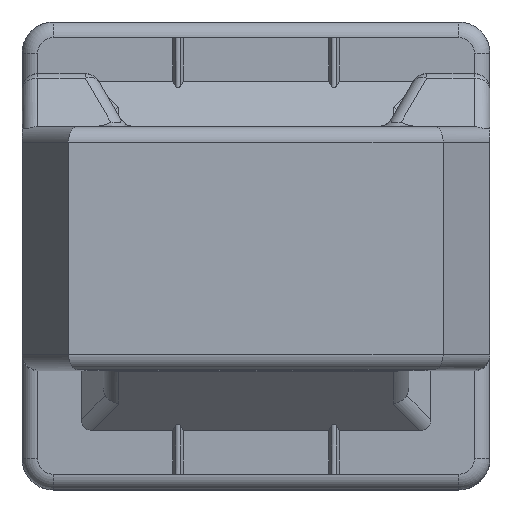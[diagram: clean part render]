
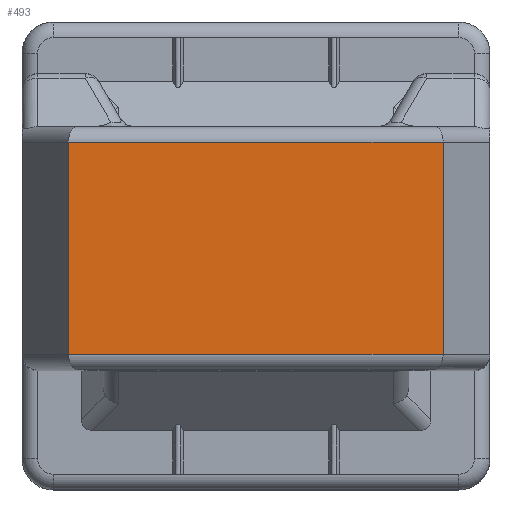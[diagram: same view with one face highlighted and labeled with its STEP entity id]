
A CAD part, top view. The second image highlights one B-rep face of the part: STEP entity #493.
In plain terms, the highlighted planar face has unit normal (0, 0, 1).
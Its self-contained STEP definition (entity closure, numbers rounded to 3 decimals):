
#493=ADVANCED_FACE('',(#1092),#1093,.F.);
#1092=FACE_OUTER_BOUND('',#2222,.T.);
#1093=PLANE('',#2223);
#2222=EDGE_LOOP('',(#4352,#4353,#4354,#4355));
#2223=AXIS2_PLACEMENT_3D('',#4356,#4357,#4358);
#4352=ORIENTED_EDGE('',*,*,#5817,.F.);
#4353=ORIENTED_EDGE('',*,*,#5538,.T.);
#4354=ORIENTED_EDGE('',*,*,#5818,.T.);
#4355=ORIENTED_EDGE('',*,*,#5819,.F.);
#4356=CARTESIAN_POINT('',(7.5,7.5,33.0));
#4357=DIRECTION('',(0.0,0.0,-1.0));
#4358=DIRECTION('',(0.0,-1.0,0.0));
#5538=EDGE_CURVE('',#6544,#6548,#6550,.T.);
#5817=EDGE_CURVE('',#6544,#6430,#6939,.T.);
#5818=EDGE_CURVE('',#6548,#6940,#6941,.T.);
#5819=EDGE_CURVE('',#6430,#6940,#6942,.T.);
#6430=VERTEX_POINT('',#7843);
#6544=VERTEX_POINT('',#8044);
#6548=VERTEX_POINT('',#8050);
#6550=LINE('',#8053,#8054);
#6939=LINE('',#8694,#8695);
#6940=VERTEX_POINT('',#8696);
#6941=LINE('',#8697,#8698);
#6942=LINE('',#8699,#8700);
#7843=CARTESIAN_POINT('',(6.,3.6,33.0));
#8044=CARTESIAN_POINT('',(-6.014,3.6,33.0));
#8050=CARTESIAN_POINT('',(-6.014,-3.2,33.0));
#8053=CARTESIAN_POINT('',(-6.014,4.1,33.0));
#8054=VECTOR('',#9386,1.0);
#8694=CARTESIAN_POINT('',(7.5,3.6,33.0));
#8695=VECTOR('',#9751,1.0);
#8696=CARTESIAN_POINT('',(6.,-3.2,33.0));
#8697=CARTESIAN_POINT('',(7.5,-3.2,33.0));
#8698=VECTOR('',#9752,1.0);
#8699=CARTESIAN_POINT('',(6.,4.1,33.0));
#8700=VECTOR('',#9753,1.0);
#9386=DIRECTION('',(0.0,-1.0,0.0));
#9751=DIRECTION('',(1.0,0.0,0.0));
#9752=DIRECTION('',(1.0,0.0,0.0));
#9753=DIRECTION('',(0.0,-1.0,0.0));
